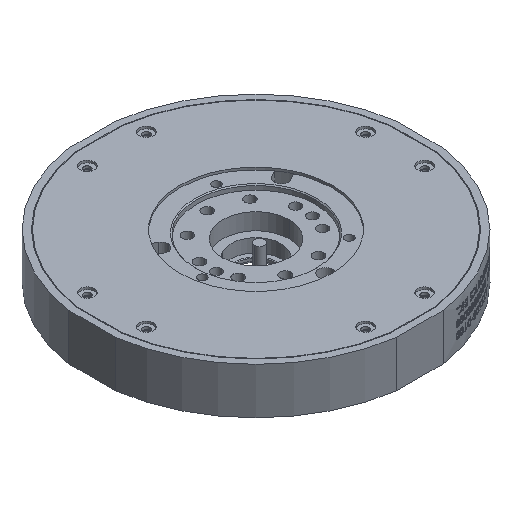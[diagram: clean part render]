
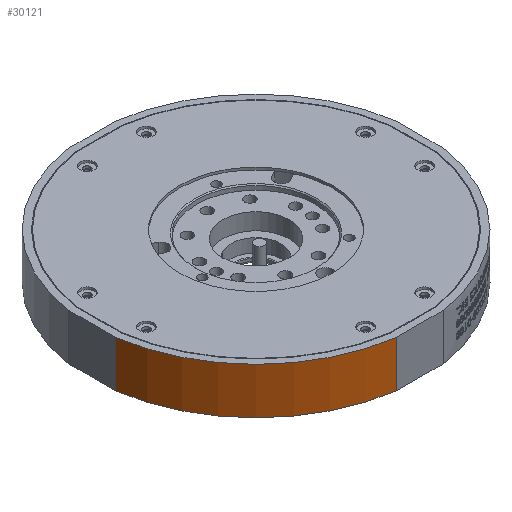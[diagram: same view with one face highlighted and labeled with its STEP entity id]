
A CAD part, isometric view. The second image highlights one B-rep face of the part: STEP entity #30121.
In plain terms, the highlighted cylindrical face has radius 50 mm (diameter 100 mm), a partial arc.
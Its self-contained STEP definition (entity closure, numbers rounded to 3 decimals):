
#3221 = DIRECTION ( 'NONE',  ( 0., 0., 1. ) ) ;
#3272 = VECTOR ( 'NONE', #36384, 1000. ) ;
#3753 = CARTESIAN_POINT ( 'NONE',  ( 0., 0., 0. ) ) ;
#5772 = EDGE_CURVE ( 'NONE', #10514, #28405, #26560, .T. ) ;
#7354 = DIRECTION ( 'NONE',  ( 1., 0., 0. ) ) ;
#8933 = CYLINDRICAL_SURFACE ( 'NONE', #36787, 50. ) ;
#10157 = CARTESIAN_POINT ( 'NONE',  ( 0., 0., 14. ) ) ;
#10514 = VERTEX_POINT ( 'NONE', #12912 ) ;
#12912 = CARTESIAN_POINT ( 'NONE',  ( -49.5, -7.053, 14. ) ) ;
#13779 = DIRECTION ( 'NONE',  ( 1., 0., 0. ) ) ;
#14282 = AXIS2_PLACEMENT_3D ( 'NONE', #3753, #28941, #7354 ) ;
#15568 = EDGE_CURVE ( 'NONE', #17525, #17272, #41097, .T. ) ;
#17272 = VERTEX_POINT ( 'NONE', #25251 ) ;
#17525 = VERTEX_POINT ( 'NONE', #30137 ) ;
#17771 = CARTESIAN_POINT ( 'NONE',  ( -7.053, -49.5, 14. ) ) ;
#19247 = DIRECTION ( 'NONE',  ( 0., 0., -1. ) ) ;
#21293 = AXIS2_PLACEMENT_3D ( 'NONE', #10157, #3221, #13779 ) ;
#22714 = DIRECTION ( 'NONE',  ( 0., 0., -1. ) ) ;
#24093 = ORIENTED_EDGE ( 'NONE', *, *, #26672, .F. ) ;
#24630 = ORIENTED_EDGE ( 'NONE', *, *, #46197, .T. ) ;
#25251 = CARTESIAN_POINT ( 'NONE',  ( -7.053, -49.5, 0. ) ) ;
#26480 = CARTESIAN_POINT ( 'NONE',  ( 0., 0., 14. ) ) ;
#26560 = LINE ( 'NONE', #26669, #42387 ) ;
#26669 = CARTESIAN_POINT ( 'NONE',  ( -49.5, -7.053, 14. ) ) ;
#26672 = EDGE_CURVE ( 'NONE', #10514, #17525, #28274, .T. ) ;
#26946 = DIRECTION ( 'NONE',  ( -1., 0., 0. ) ) ;
#28193 = CARTESIAN_POINT ( 'NONE',  ( -49.5, -7.053, 0. ) ) ;
#28274 = CIRCLE ( 'NONE', #21293, 50. ) ;
#28405 = VERTEX_POINT ( 'NONE', #28193 ) ;
#28941 = DIRECTION ( 'NONE',  ( 0., 0., 1. ) ) ;
#30121 = ADVANCED_FACE ( 'NONE', ( #33217 ), #8933, .T. ) ;
#30137 = CARTESIAN_POINT ( 'NONE',  ( -7.053, -49.5, 14. ) ) ;
#31597 = ORIENTED_EDGE ( 'NONE', *, *, #5772, .T. ) ;
#31693 = CIRCLE ( 'NONE', #14282, 50. ) ;
#33217 = FACE_OUTER_BOUND ( 'NONE', #44797, .T. ) ;
#34314 = ORIENTED_EDGE ( 'NONE', *, *, #15568, .F. ) ;
#36384 = DIRECTION ( 'NONE',  ( 0., 0., -1. ) ) ;
#36787 = AXIS2_PLACEMENT_3D ( 'NONE', #26480, #22714, #26946 ) ;
#41097 = LINE ( 'NONE', #17771, #3272 ) ;
#42387 = VECTOR ( 'NONE', #19247, 1000. ) ;
#44797 = EDGE_LOOP ( 'NONE', ( #24630, #34314, #24093, #31597 ) ) ;
#46197 = EDGE_CURVE ( 'NONE', #28405, #17272, #31693, .T. ) ;
